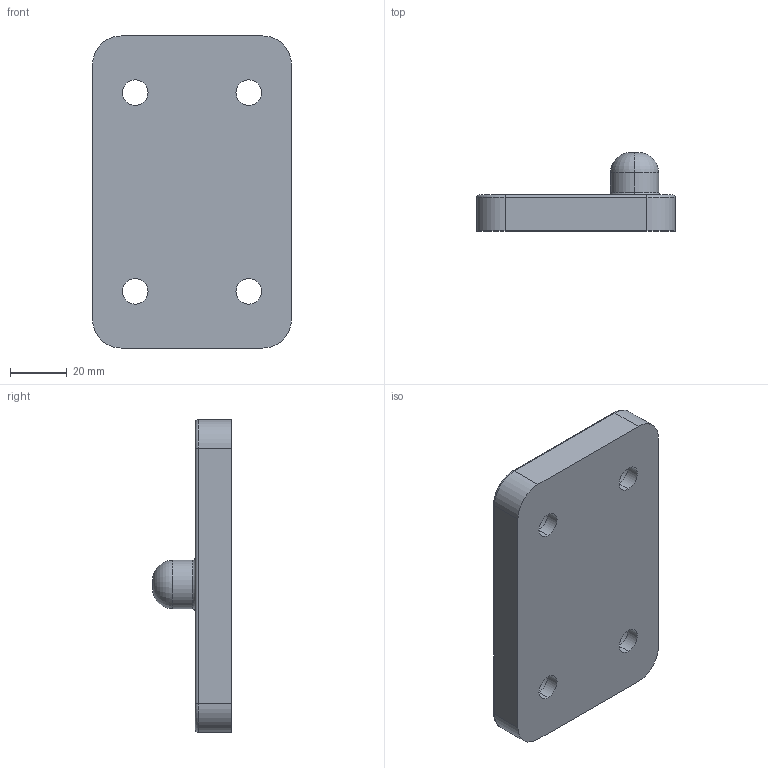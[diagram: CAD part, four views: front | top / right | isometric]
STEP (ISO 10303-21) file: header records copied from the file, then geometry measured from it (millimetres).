
FILE_DESCRIPTION (( 'STEP AP214' ), '1' );
FILE_NAME ('MISC1812FS120BWLPIN-LS.STEP', '2021-03-08T22:54:48', ( '' ), ( '' ), 'SwSTEP 2.0', 'SolidWorks 2021', '' );
FILE_SCHEMA (( 'AUTOMOTIVE_DESIGN' ));
Length unit declared in the file: millimetre
Products named in the file (1): MISC1812FS120BWLPIN-LS
Bounding box: 70 x 27.7 x 110 mm (x, y, z)
Volume: 92733.8 mm3; surface area: 21561.7 mm2
Topology: 1 solids, 1 shells, 45 faces, 102 edges, 64 vertices
Faces by surface type: cylinder 26, plane 11, torus 8
Entity records: 1334 total; most frequent: DIRECTION 258, CARTESIAN_POINT 212, ORIENTED_EDGE 204, AXIS2_PLACEMENT_3D 110, EDGE_CURVE 102, VERTEX_POINT 64, CIRCLE 64, EDGE_LOOP 58
